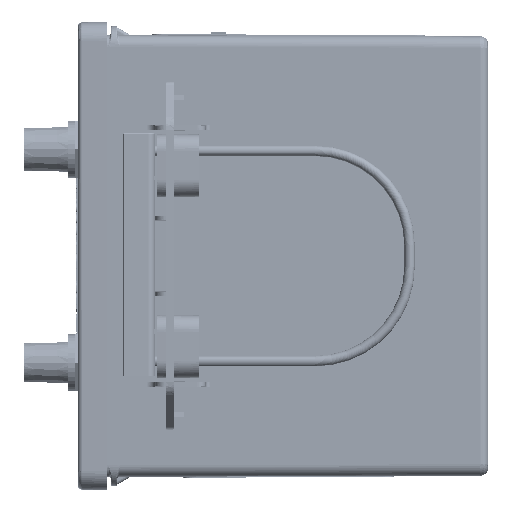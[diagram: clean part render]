
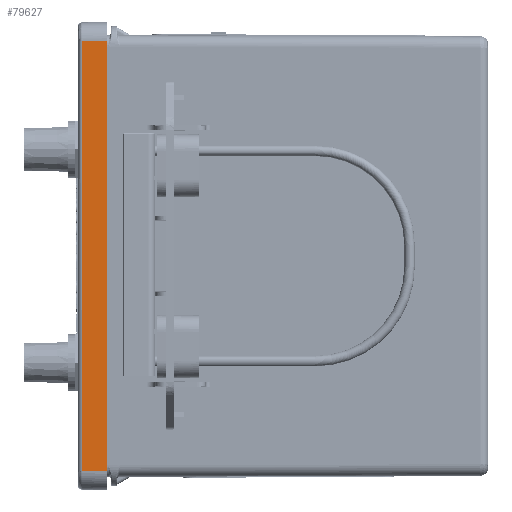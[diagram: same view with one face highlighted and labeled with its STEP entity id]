
A CAD part, left-side view. The second image highlights one B-rep face of the part: STEP entity #79627.
In plain terms, the highlighted planar face has unit normal (-1, 0.018, 0).
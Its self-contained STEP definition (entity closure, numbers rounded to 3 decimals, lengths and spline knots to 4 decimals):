
#1241 = VERTEX_POINT ( 'NONE', #171554 ) ;
#4433 = DIRECTION ( 'NONE',  ( 0., 0., -1. ) ) ;
#28196 = DIRECTION ( 'NONE',  ( -1., 0.017, 0. ) ) ;
#39065 = VECTOR ( 'NONE', #92368, 39.3701 ) ;
#51915 = VERTEX_POINT ( 'NONE', #195976 ) ;
#63075 = EDGE_CURVE ( 'NONE', #146921, #51915, #130158, .T. ) ;
#79627 = ADVANCED_FACE ( 'NONE', ( #166554 ), #250096, .T. ) ;
#84115 = EDGE_CURVE ( 'NONE', #51915, #1241, #145179, .T. ) ;
#88844 = EDGE_LOOP ( 'NONE', ( #357804, #91331, #212787, #275347 ) ) ;
#91331 = ORIENTED_EDGE ( 'NONE', *, *, #84115, .T. ) ;
#92368 = DIRECTION ( 'NONE',  ( 0., 0., 1. ) ) ;
#93517 = VECTOR ( 'NONE', #316571, 39.3701 ) ;
#105802 = CARTESIAN_POINT ( 'NONE',  ( -9.4999, 7.5998, -4.0177 ) ) ;
#108326 = CARTESIAN_POINT ( 'NONE',  ( -9.5079, 7.1457, 0. ) ) ;
#130158 = LINE ( 'NONE', #241033, #214209 ) ;
#133909 = EDGE_CURVE ( 'NONE', #146921, #251272, #296347, .T. ) ;
#145179 = LINE ( 'NONE', #176054, #39065 ) ;
#146921 = VERTEX_POINT ( 'NONE', #105802 ) ;
#166554 = FACE_OUTER_BOUND ( 'NONE', #88844, .T. ) ;
#166623 = AXIS2_PLACEMENT_3D ( 'NONE', #108326, #28196, #4433 ) ;
#171554 = CARTESIAN_POINT ( 'NONE',  ( -9.5079, 7.1457, 4.0256 ) ) ;
#176054 = CARTESIAN_POINT ( 'NONE',  ( -9.5079, 7.1457, -4.0256 ) ) ;
#195976 = CARTESIAN_POINT ( 'NONE',  ( -9.5079, 7.1457, -4.0256 ) ) ;
#205768 = VECTOR ( 'NONE', #218089, 39.3701 ) ;
#212787 = ORIENTED_EDGE ( 'NONE', *, *, #330846, .T. ) ;
#214209 = VECTOR ( 'NONE', #352043, 39.3701 ) ;
#218089 = DIRECTION ( 'NONE',  ( 0., 0., 1. ) ) ;
#241033 = CARTESIAN_POINT ( 'NONE',  ( -9.4999, 7.5998, -4.0177 ) ) ;
#243520 = CARTESIAN_POINT ( 'NONE',  ( -9.4999, 7.5998, -4.0177 ) ) ;
#250096 = PLANE ( 'NONE',  #166623 ) ;
#251272 = VERTEX_POINT ( 'NONE', #295613 ) ;
#275347 = ORIENTED_EDGE ( 'NONE', *, *, #133909, .F. ) ;
#295613 = CARTESIAN_POINT ( 'NONE',  ( -9.4999, 7.5998, 4.0177 ) ) ;
#296347 = LINE ( 'NONE', #243520, #205768 ) ;
#312993 = LINE ( 'NONE', #318358, #93517 ) ;
#316571 = DIRECTION ( 'NONE',  ( 0.017, 1., -0.017 ) ) ;
#318358 = CARTESIAN_POINT ( 'NONE',  ( -9.5079, 7.1457, 4.0256 ) ) ;
#330846 = EDGE_CURVE ( 'NONE', #1241, #251272, #312993, .T. ) ;
#352043 = DIRECTION ( 'NONE',  ( -0.017, -1., -0.017 ) ) ;
#357804 = ORIENTED_EDGE ( 'NONE', *, *, #63075, .T. ) ;
